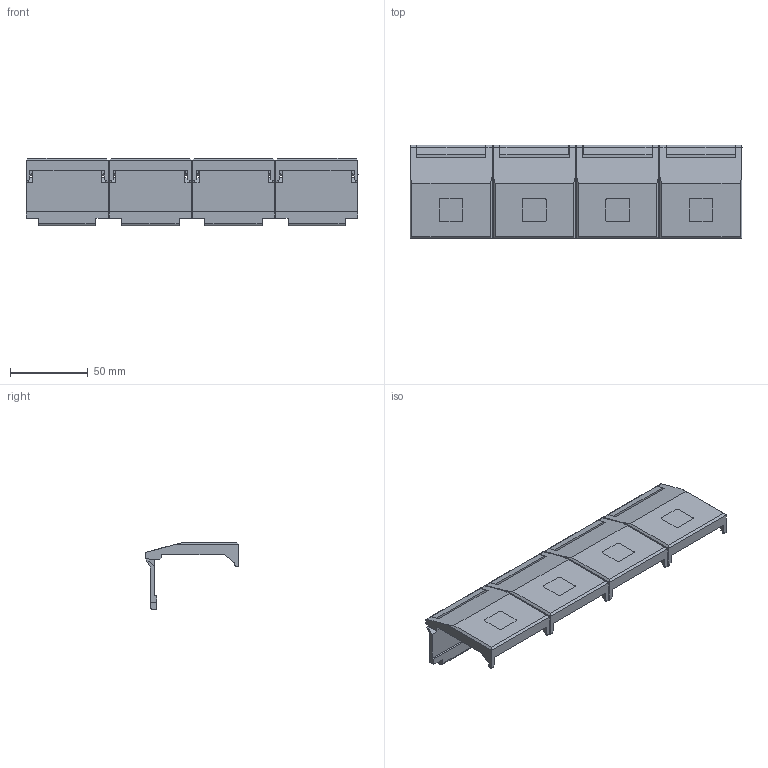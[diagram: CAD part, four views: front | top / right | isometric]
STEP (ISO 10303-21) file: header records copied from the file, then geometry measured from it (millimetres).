
FILE_DESCRIPTION(/* description */ (''),/* implementation_level */ '2;1');
FILE_NAME(/* name */ 'LA-2098-0965#-A.stp',/* time_stamp */ '2012-09-07T10:16:16+01:00',/* author */ (''),/* organization */ (''),/* preprocessor_version */ 'ST-DEVELOPER v11',/* originating_system */ 'SIEMENS PLM Software NX 7.5',/* authorisation */ '');
FILE_SCHEMA (('AUTOMOTIVE_DESIGN { 1 0 10303 214 1 1 1 1 }'));
Length unit declared in the file: millimetre
Products named in the file (1): rt13371Ayv21
Bounding box: 213.25 x 60 x 43.4 mm (x, y, z)
Volume: 107531.4 mm3; surface area: 47502.2 mm2
Topology: 8 solids, 8 shells, 248 faces, 788 edges, 560 vertices
Faces by surface type: plane 196, cylinder 36, bspline 16
Entity records: 10573 total; most frequent: CARTESIAN_POINT 1813, ORIENTED_EDGE 1576, DIRECTION 1270, EDGE_CURVE 788, LINE 628, VECTOR 628, VERTEX_POINT 560, AXIS2_PLACEMENT_3D 321
